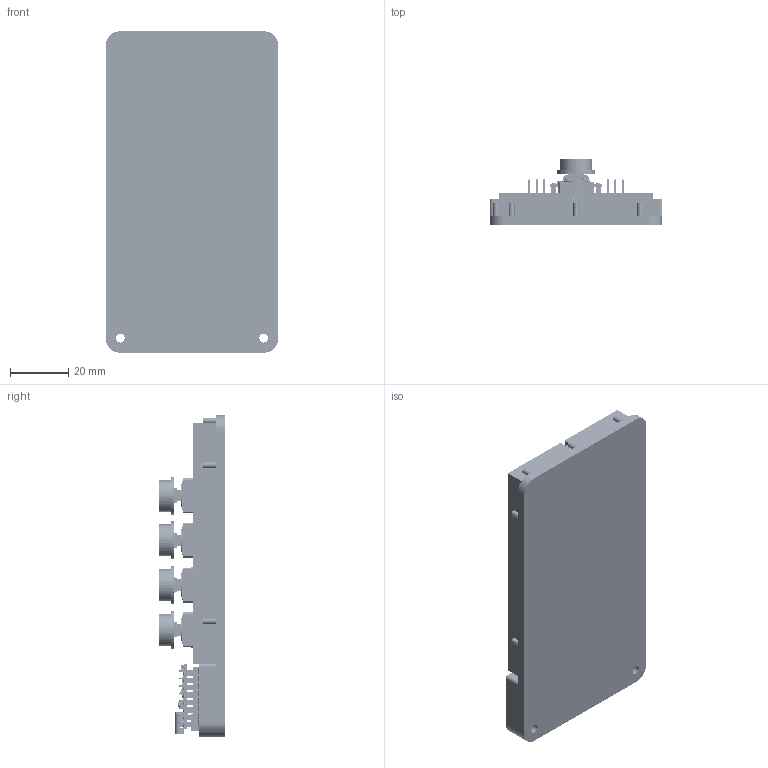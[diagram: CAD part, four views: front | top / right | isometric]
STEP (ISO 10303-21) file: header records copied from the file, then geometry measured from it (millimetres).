
FILE_DESCRIPTION(/* description */ ('','CAx-IF Rec.Pracs.---Representation and Presentation of Product Manufacturing Information (PMI)---4.0---2014-10-13'),/* implementation_level */ '2;1');
FILE_NAME(/* name */ 'esp32_c3_smini2.stp',/* time_stamp */ '2026-06-02T19:44:28+02:00',/* author */ ('R5800u'),/* organization */ (''),/* preprocessor_version */ 'ST-DEVELOPER v20',/* originating_system */ 'Autodesk Inventor 2025',/* authorisation */ '');
FILE_SCHEMA (('AP242_MANAGED_MODEL_BASED_3D_ENGINEERING_MIM_LF { 1 0 10303 442 1 1 4 }'));
Products named in the file (114): Assieme28; Half-Size Breadboard; Main Half-Size Board; Half-Size Side Rail; ESP32-C3 Super Mini breakout expansion board module -Assembly; pcb; JST - PH - SMD (R) - 2Pin - 2.00mm; pinheaderyellow; COMPOUND; COMPOUND_1; COMPOUND_2; COMPOUND_3; COMPOUND_4; COMPOUND_5; COMPOUND_6; COMPOUND_7; COMPOUND_8; COMPOUND_9; COMPOUND_10; COMPOUND_11; COMPOUND_12; COMPOUND_13; COMPOUND_14; COMPOUND_15; COMPOUND_16; COMPOUND_17; pinheader8Red; COMPOUND_18; COMPOUND_19; COMPOUND_20; COMPOUND_21; COMPOUND_22; COMPOUND_23; COMPOUND_24; COMPOUND_25; COMPOUND_26; COMPOUND_27; COMPOUND_28; COMPOUND_29; COMPOUND_30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
Assembly tree (163 placements, depth 6):
  Assieme28
    Half-Size Breadboard
      Main Half-Size Board
      Half-Size Side Rail  x2
    ESP32-C3 Super Mini breakout expansion board module -Assembly
      pcb
      pinheaderyellow  x2
        COMPOUND
          COMPOUND_1
          COMPOUND_2
          COMPOUND_3
          COMPOUND_4
          COMPOUND_5
          COMPOUND_6
          COMPOUND_7
          COMPOUND_8
        COMPOUND_9
          COMPOUND_10
          COMPOUND_11
          COMPOUND_12
          COMPOUND_13
          COMPOUND_14
          COMPOUND_15
          COMPOUND_16
          COMPOUND_17
      pinheader8Red  x2
        COMPOUND_18
          COMPOUND_19
          COMPOUND_20
          COMPOUND_21
          COMPOUND_22
          COMPOUND_23
          COMPOUND_24
          COMPOUND_25
          COMPOUND_26
        COMPOUND_27
          COMPOUND_28
          COMPOUND_29
          COMPOUND_30
          COMPOUND_31
          COMPOUND_32
          COMPOUND_33
          COMPOUND_34
          COMPOUND_35
      pinheader8Black  x2
        COMPOUND_36
          COMPOUND_37
          COMPOUND_38
          COMPOUND_39
          COMPOUND_40
          COMPOUND_41
          COMPOUND_42
          COMPOUND_43
          COMPOUND_44
        COMPOUND_45
          COMPOUND_46
          COMPOUND_47
          COMPOUND_48
          COMPOUND_49
          COMPOUND_50
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Bounding box: 59.09 x 22.6 x 110 mm (x, y, z)
Volume: 62063 mm3; surface area: 51481.4 mm2
Topology: 396 solids, 464 shells, 13326 faces, 34171 edges, 22434 vertices
Faces by surface type: plane 9671, bspline 2637, cylinder 920, sphere 50, torus 24, cone 24
Full cylindrical faces by diameter (mm): 0.25 x1, 0.269 x1, 0.3 x1, 0.5 x16, 0.6 x2, 0.7 x64, 0.859 x48, 1.665 x32, 1.8 x2, 2 x4, 2.1 x2, 3 x2, 5.6 x2, 8 x4, 11 x4, 13 x4
Entity records: 287255 total; most frequent: CARTESIAN_POINT 76349, ORIENTED_EDGE 43032, DIRECTION 37749, EDGE_CURVE 21600, LINE 17365, VECTOR 17365, VERTEX_POINT 14385, AXIS2_PLACEMENT_3D 10192
